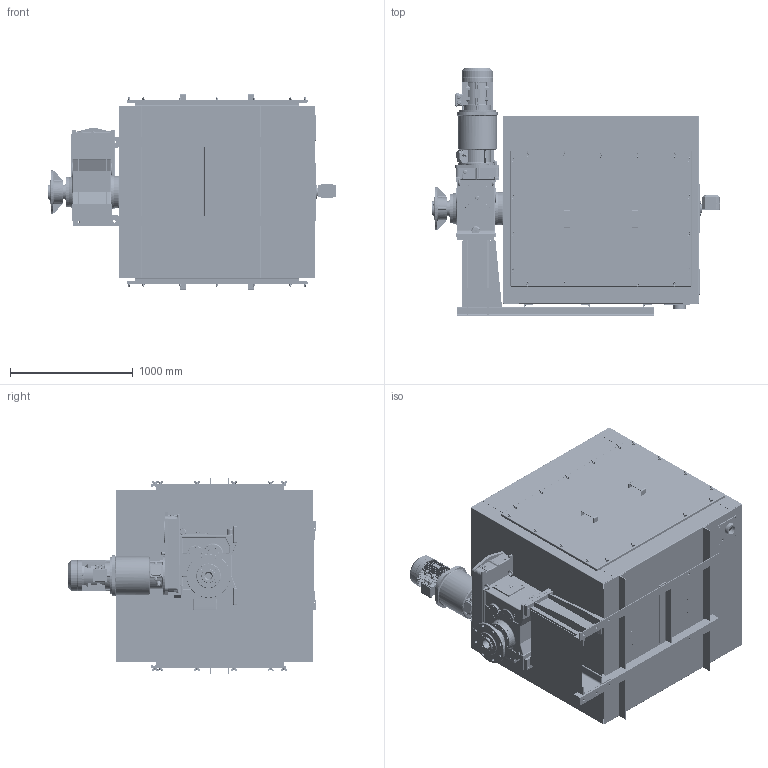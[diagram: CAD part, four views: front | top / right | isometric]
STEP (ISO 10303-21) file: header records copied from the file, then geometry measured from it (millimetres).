
FILE_DESCRIPTION(/* description */ (''),/* implementation_level */ '2;1');
FILE_NAME(/* name */ 'K:\NEMANJA\CABLE REEL\CABLE REEL DA\0700-6\07006002 DAPR-MCGBSR\STEP\75916.stp',/* time_stamp */ '2017-03-16T11:33:33+01:00',/* author */ ('milman01'),/* organization */ ('Hillmar Industries Ltd.'),/* preprocessor_version */ 'ST-DEVELOPER v16.1',/* originating_system */ 'Autodesk Inventor 2016',/* authorisation */ '');
FILE_SCHEMA (('AUTOMOTIVE_DESIGN { 1 0 10303 214 3 1 1 }'));
Products named in the file (1): 75916
Bounding box: 2346.13 x 2028.71 x 1606.6 mm (x, y, z)
Volume: 132097481.2 mm3; surface area: 44358179.4 mm2
Topology: 12 solids, 12 shells, 8368 faces, 22396 edges, 14352 vertices
Faces by surface type: plane 4801, cylinder 1899, bspline 755, cone 587, torus 260, sphere 66
Full cylindrical faces by diameter (mm): 3 x4, 7 x3, 8 x3, 8.376 x51, 8.731 x1, 9 x7, 10 x35, 10.106 x81, 11 x12, 12 x2, 12.5 x6, 13 x55, 13.5 x12, 14 x24, 14.3 x8, 14.5 x8, 15 x8, 17.294 x4, 18 x3, 18.256 x3, 18.38 x3, 20 x16, 20.5 x4, 21.336 x1, 22 x20, 22.225 x1, 22.3 x3, 22.631 x1, 23.812 x1, 24.917 x1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
Entity records: 281751 total; most frequent: CARTESIAN_POINT 72907, ORIENTED_EDGE 42260, DIRECTION 39189, EDGE_CURVE 21123, VERTEX_POINT 13902, AXIS2_PLACEMENT_3D 13323, LINE 12543, VECTOR 12543
